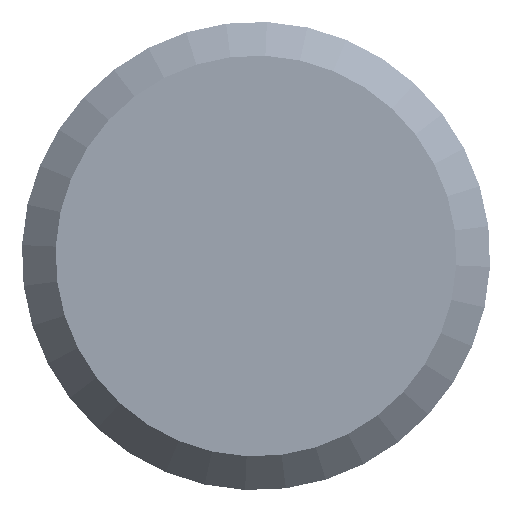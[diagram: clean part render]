
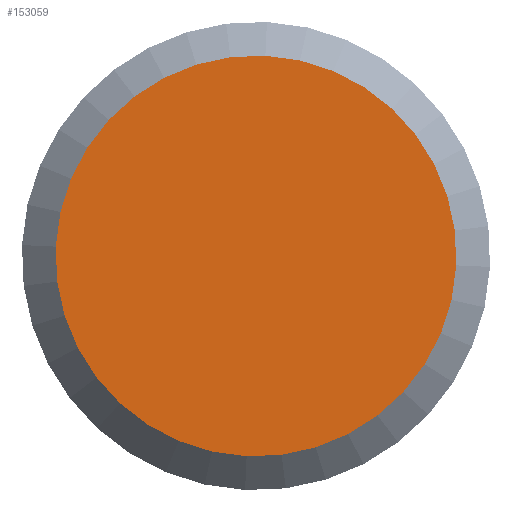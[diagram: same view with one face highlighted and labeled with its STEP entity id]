
A CAD part, front view. The second image highlights one B-rep face of the part: STEP entity #153059.
In plain terms, the highlighted planar face has unit normal (0, -1, 0).
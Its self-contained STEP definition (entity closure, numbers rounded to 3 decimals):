
#865 = PLANE ( 'NONE',  #490691 ) ;
#51135 = AXIS2_PLACEMENT_3D ( 'NONE', #1239103, #502996, #712708 ) ;
#112449 = DIRECTION ( 'NONE',  ( 0., 1., 0. ) ) ;
#128060 = CIRCLE ( 'NONE', #418509, 483.5 ) ;
#138167 = CARTESIAN_POINT ( 'NONE',  ( -68.09, -153.242, 0. ) ) ;
#153059 = ADVANCED_FACE ( 'NONE', ( #500616 ), #865, .F. ) ;
#164318 = EDGE_LOOP ( 'NONE', ( #806083, #1267236 ) ) ;
#245385 = DIRECTION ( 'NONE',  ( -1., 0., 0. ) ) ;
#264154 = VERTEX_POINT ( 'NONE', #880526 ) ;
#418509 = AXIS2_PLACEMENT_3D ( 'NONE', #138167, #869528, #245385 ) ;
#490691 = AXIS2_PLACEMENT_3D ( 'NONE', #750363, #112449, #540765 ) ;
#500616 = FACE_OUTER_BOUND ( 'NONE', #164318, .T. ) ;
#502996 = DIRECTION ( 'NONE',  ( 0., 1., 0. ) ) ;
#540765 = DIRECTION ( 'NONE',  ( -1., 0., 0. ) ) ;
#576405 = EDGE_CURVE ( 'NONE', #264154, #1088985, #128060, .T. ) ;
#712708 = DIRECTION ( 'NONE',  ( -1., 0., 0. ) ) ;
#750363 = CARTESIAN_POINT ( 'NONE',  ( 415.41, -153.242, 0. ) ) ;
#806083 = ORIENTED_EDGE ( 'NONE', *, *, #1303998, .F. ) ;
#869528 = DIRECTION ( 'NONE',  ( 0., 1., 0. ) ) ;
#880526 = CARTESIAN_POINT ( 'NONE',  ( 415.41, -153.242, 0. ) ) ;
#1088985 = VERTEX_POINT ( 'NONE', #1253348 ) ;
#1114468 = CIRCLE ( 'NONE', #51135, 483.5 ) ;
#1239103 = CARTESIAN_POINT ( 'NONE',  ( -68.09, -153.242, 0. ) ) ;
#1253348 = CARTESIAN_POINT ( 'NONE',  ( -551.59, -153.242, 0. ) ) ;
#1267236 = ORIENTED_EDGE ( 'NONE', *, *, #576405, .F. ) ;
#1303998 = EDGE_CURVE ( 'NONE', #1088985, #264154, #1114468, .T. ) ;
